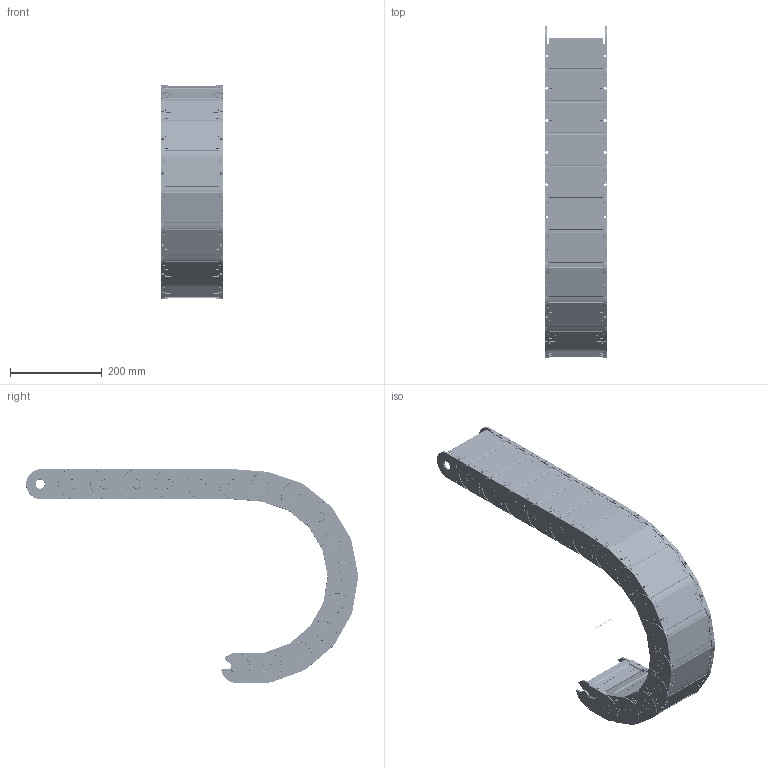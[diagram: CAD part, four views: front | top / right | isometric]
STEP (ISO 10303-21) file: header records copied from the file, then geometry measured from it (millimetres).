
FILE_DESCRIPTION((''),'2;1');
FILE_NAME('C:\Uebbing\PARAMETERKETTEN\KOLIBRI\Kol_65_135_5\Kol_65_135_5_R200.stp','2012-03-06T09:09:25',('Uebbing'),(''),'Autodesk Inventor 10','Autodesk Inventor 10','');
FILE_SCHEMA(('AUTOMOTIVE_DESIGN { 1 0 10303 214 1 1 1 1 }'));
Length unit declared in the file: millimetre
Products named in the file (5): KOLIBRI 65_135_5_PARAMETRISCH; Achse; Kol_65_135_5; Kol_65_135_5 Lasche; Kol_65_135_5 Klappdeckel
Assembly tree (19 placements, depth 3):
  KOLIBRI 65_135_5_PARAMETRISCH
    Achse
    Kol_65_135_5  x16
      Kol_65_135_5 Lasche
      Kol_65_135_5 Klappdeckel
Bounding box: 135 x 722.31 x 465 mm (x, y, z)
Volume: 1888354.1 mm3; surface area: 1294306.9 mm2
Topology: 33 solids, 33 shells, 10243 faces, 27908 edges, 17843 vertices
Faces by surface type: plane 4114, bspline 3888, cylinder 1809, torus 336, cone 64, sphere 32
Full cylindrical faces by diameter (mm): 1 x1, 2.514 x16, 4 x48, 4.414 x16, 6 x16, 20 x32
Entity records: 21900 total; most frequent: CARTESIAN_POINT 6112, ORIENTED_EDGE 3422, DIRECTION 2951, EDGE_CURVE 1711, VECTOR 1239, LINE 1239, VERTEX_POINT 1106, AXIS2_PLACEMENT_3D 856
